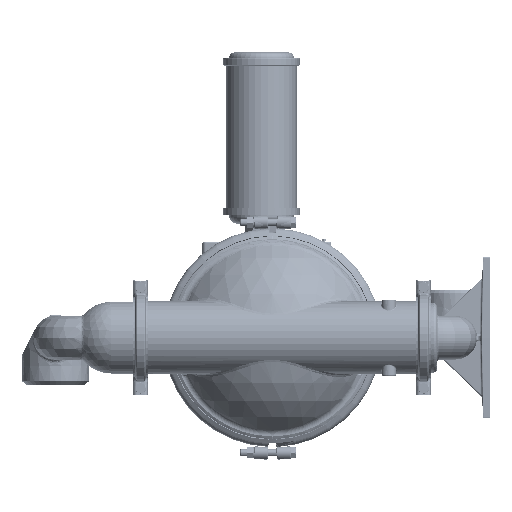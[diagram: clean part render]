
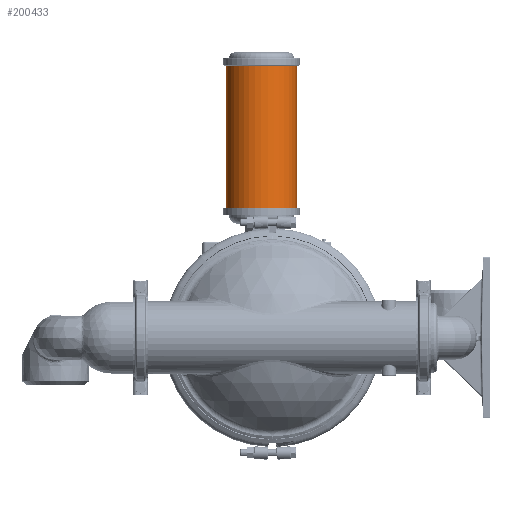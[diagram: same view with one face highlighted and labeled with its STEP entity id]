
A CAD part, left-side view. The second image highlights one B-rep face of the part: STEP entity #200433.
In plain terms, the highlighted cylindrical face has radius 61.722 mm (diameter 123.444 mm), a partial arc.
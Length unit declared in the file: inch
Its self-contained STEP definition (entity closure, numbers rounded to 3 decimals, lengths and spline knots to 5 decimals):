
#8306 = AXIS2_PLACEMENT_3D ( 'NONE', #496530, #19980, #233012 ) ;
#9815 = CIRCLE ( 'NONE', #394853, 2.43 ) ;
#17741 = LINE ( 'NONE', #309383, #307893 ) ;
#19980 = DIRECTION ( 'NONE',  ( 0., 0., -1. ) ) ;
#25773 = EDGE_CURVE ( 'NONE', #255309, #288303, #451130, .T. ) ;
#36132 = DIRECTION ( 'NONE',  ( 0., 1., 0. ) ) ;
#37256 = VERTEX_POINT ( 'NONE', #409556 ) ;
#68370 = ORIENTED_EDGE ( 'NONE', *, *, #519071, .F. ) ;
#87079 = DIRECTION ( 'NONE',  ( 0., 0., 1. ) ) ;
#114649 = ORIENTED_EDGE ( 'NONE', *, *, #25773, .T. ) ;
#150193 = CARTESIAN_POINT ( 'NONE',  ( 0., 3.18, 18.685 ) ) ;
#153120 = DIRECTION ( 'NONE',  ( 0., 0., 1. ) ) ;
#193709 = FACE_OUTER_BOUND ( 'NONE', #484607, .T. ) ;
#200433 = ADVANCED_FACE ( 'NONE', ( #193709 ), #317137, .T. ) ;
#209331 = AXIS2_PLACEMENT_3D ( 'NONE', #473374, #509940, #36132 ) ;
#224359 = LINE ( 'NONE', #395401, #406143 ) ;
#233012 = DIRECTION ( 'NONE',  ( 0., -1., 0. ) ) ;
#240038 = CARTESIAN_POINT ( 'NONE',  ( 0., 0.75, 18.685 ) ) ;
#255309 = VERTEX_POINT ( 'NONE', #300875 ) ;
#285812 = EDGE_CURVE ( 'NONE', #288303, #37256, #224359, .T. ) ;
#288303 = VERTEX_POINT ( 'NONE', #366212 ) ;
#300875 = CARTESIAN_POINT ( 'NONE',  ( 0., 3.18, 8.905 ) ) ;
#303534 = ORIENTED_EDGE ( 'NONE', *, *, #285812, .T. ) ;
#307893 = VECTOR ( 'NONE', #480498, 39.37008 ) ;
#309383 = CARTESIAN_POINT ( 'NONE',  ( 0., 3.18, 8.905 ) ) ;
#317137 = CYLINDRICAL_SURFACE ( 'NONE', #8306, 2.43 ) ;
#366212 = CARTESIAN_POINT ( 'NONE',  ( 0., -1.68, 8.905 ) ) ;
#369011 = DIRECTION ( 'NONE',  ( 0., 1., 0. ) ) ;
#394853 = AXIS2_PLACEMENT_3D ( 'NONE', #240038, #153120, #369011 ) ;
#395401 = CARTESIAN_POINT ( 'NONE',  ( 0., -1.68, 8.905 ) ) ;
#406143 = VECTOR ( 'NONE', #87079, 39.37008 ) ;
#409556 = CARTESIAN_POINT ( 'NONE',  ( 0., -1.68, 18.685 ) ) ;
#451130 = CIRCLE ( 'NONE', #209331, 2.43 ) ;
#473374 = CARTESIAN_POINT ( 'NONE',  ( 0., 0.75, 8.905 ) ) ;
#480498 = DIRECTION ( 'NONE',  ( 0., 0., 1. ) ) ;
#484607 = EDGE_LOOP ( 'NONE', ( #114649, #303534, #523668, #68370 ) ) ;
#496530 = CARTESIAN_POINT ( 'NONE',  ( 0., 0.75, 20.1725 ) ) ;
#509940 = DIRECTION ( 'NONE',  ( 0., 0., 1. ) ) ;
#510590 = EDGE_CURVE ( 'NONE', #546893, #37256, #9815, .T. ) ;
#519071 = EDGE_CURVE ( 'NONE', #255309, #546893, #17741, .T. ) ;
#523668 = ORIENTED_EDGE ( 'NONE', *, *, #510590, .F. ) ;
#546893 = VERTEX_POINT ( 'NONE', #150193 ) ;
